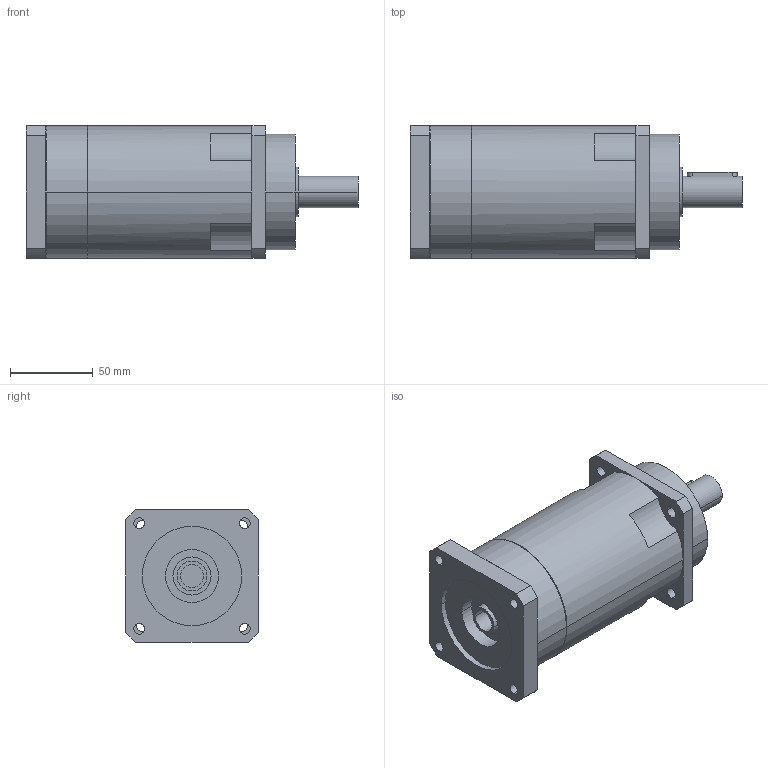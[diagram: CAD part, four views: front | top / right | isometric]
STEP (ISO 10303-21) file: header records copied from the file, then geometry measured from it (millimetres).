
FILE_DESCRIPTION(('CoCreate Modeling STEP Export'),'2;1');
FILE_NAME('GPR100_ig-48-64-80-100-120-144-180-216_19_B5_14_P19.stp','2014-08-26T11:54:43',(''),(''),'CoCreate Modeling STEP processor for AP214 (Solid Model)','CoCreate Modeling 16.00C 25-Feb-2009 (C) Parametric Technology GmbH','');
FILE_SCHEMA(('AUTOMOTIVE_DESIGN { 1 0 10303 214 1 1 1 1 }'));
Length unit declared in the file: millimetre
Products named in the file (2): GPR100_ig-48-64-80-100-120-144-180-216_19_B5_14_P19
Assembly tree (1 placements, depth 2):
  GPR100_ig-48-64-80-100-120-144-180-216_19_B5_14_P19
    GPR100_ig-48-64-80-100-120-144-180-216_19_B5_14_P19
Bounding box: 200.4 x 80 x 80 mm (x, y, z)
Volume: 800725 mm3; surface area: 64873.7 mm2
Topology: 1 solids, 1 shells, 101 faces, 287 edges, 197 vertices
Faces by surface type: cylinder 60, plane 35, cone 6
Entity records: 2996 total; most frequent: CARTESIAN_POINT 578, ORIENTED_EDGE 570, DIRECTION 426, EDGE_CURVE 285, VERTEX_POINT 197, AXIS2_PLACEMENT_3D 161, EDGE_LOOP 128, VECTOR 104
